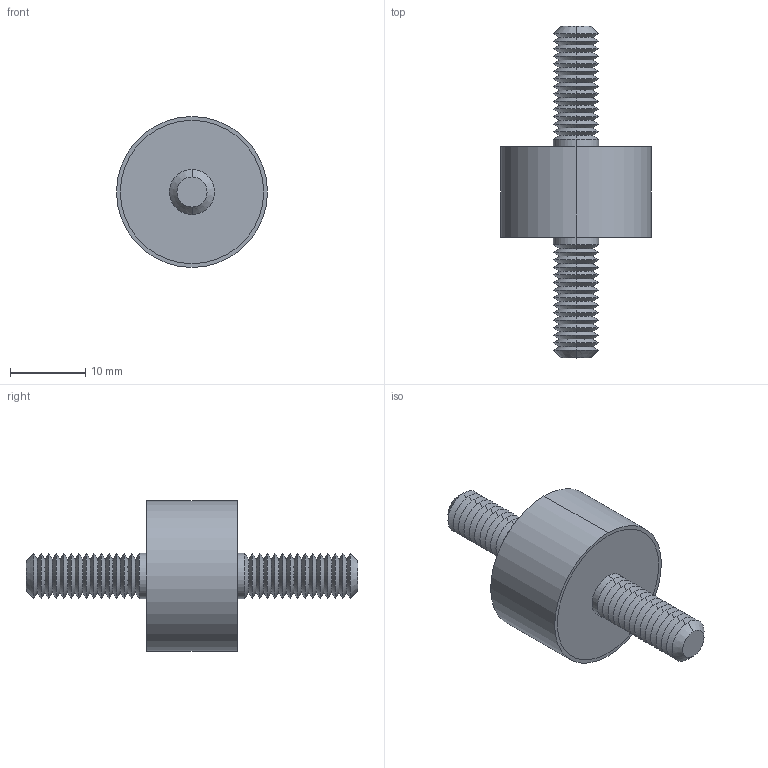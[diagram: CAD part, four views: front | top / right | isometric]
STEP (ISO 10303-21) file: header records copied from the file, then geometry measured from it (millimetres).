
FILE_DESCRIPTION (( 'STEP AP203' ), '1' );
FILE_NAME ('61040.W0183.step', '2019-09-24T22:27:10', ( '' ), ( '' ), 'SwSTEP 2.0', 'SolidWorks 2017', '' );
FILE_SCHEMA (( 'CONFIG_CONTROL_DESIGN' ));
Length unit declared in the file: millimetre
Products named in the file (4): Part1_61040.W0183; Part3_61040.W0183; 61040.W0183; Part2_61040.W0183
Assembly tree (3 placements, depth 2):
  61040.W0183
    Part1_61040.W0183
    Part2_61040.W0183
    Part3_61040.W0183
Bounding box: 20 x 44 x 20 mm (x, y, z)
Volume: 4451.4 mm3; surface area: 3589.7 mm2
Topology: 3 solids, 3 shells, 140 faces, 274 edges, 144 vertices
Faces by surface type: cone 116, cylinder 14, plane 10
Entity records: 3908 total; most frequent: DIRECTION 710, CARTESIAN_POINT 564, ORIENTED_EDGE 548, AXIS2_PLACEMENT_3D 290, EDGE_CURVE 274, EDGE_LOOP 144, CIRCLE 144, VERTEX_POINT 144
